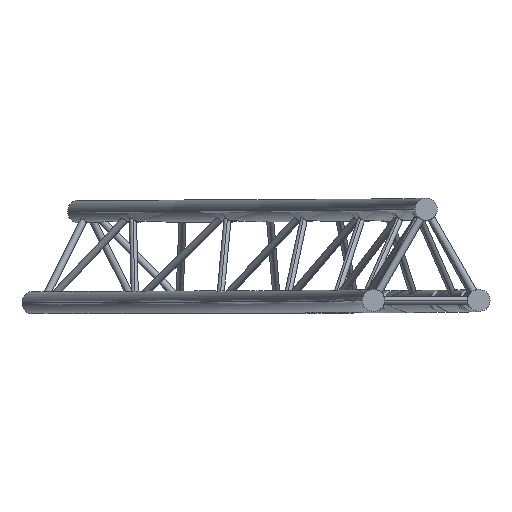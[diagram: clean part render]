
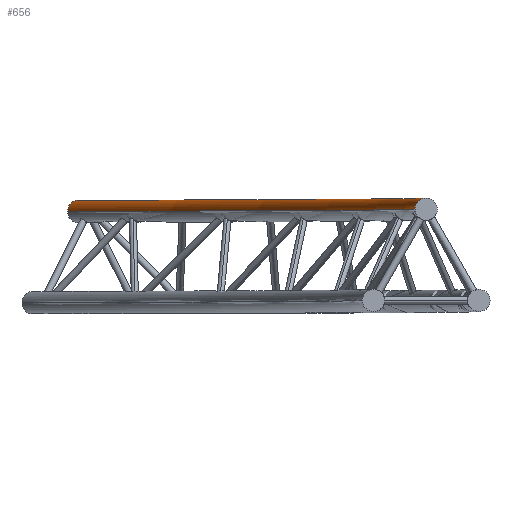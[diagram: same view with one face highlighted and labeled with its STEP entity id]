
A CAD part, top view. The second image highlights one B-rep face of the part: STEP entity #656.
In plain terms, the highlighted toroidal (fillet/blend) face has major radius 5856.5 mm and minor radius 25 mm.
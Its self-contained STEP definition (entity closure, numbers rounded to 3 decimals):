
#55 = EDGE_CURVE ( 'NONE', #531, #56, #1358, .T. ) ;
#56 = VERTEX_POINT ( 'NONE', #1350 ) ;
#531 = VERTEX_POINT ( 'NONE', #3977 ) ;
#535 = VERTEX_POINT ( 'NONE', #4010 ) ;
#651 = EDGE_CURVE ( 'NONE', #9315, #56, #4701, .T. ) ;
#654 = EDGE_LOOP ( 'NONE', ( #657, #658, #659, #660 ) ) ;
#655 = EDGE_CURVE ( 'NONE', #535, #531, #4806, .T. ) ;
#656 = ADVANCED_FACE ( 'NONE', ( #4801 ), #4800, .T. ) ;
#657 = ORIENTED_EDGE ( 'NONE', *, *, #9312, .F. ) ;
#658 = ORIENTED_EDGE ( 'NONE', *, *, #655, .T. ) ;
#659 = ORIENTED_EDGE ( 'NONE', *, *, #55, .T. ) ;
#660 = ORIENTED_EDGE ( 'NONE', *, *, #651, .F. ) ;
#1350 = CARTESIAN_POINT ( 'NONE',  ( 5831.5, 136.832, 0. ) ) ;
#1351 = DIRECTION ( 'NONE',  ( 0., 0., -1. ) ) ;
#1352 = DIRECTION ( 'NONE',  ( 0., -1., 0. ) ) ;
#1353 = CARTESIAN_POINT ( 'NONE',  ( 0., 136.832, 0. ) ) ;
#1354 = AXIS2_PLACEMENT_3D ( 'NONE', #1353, #1352, #1351 ) ;
#1358 = CIRCLE ( 'NONE', #1354, 5831.5 ) ;
#3977 = CARTESIAN_POINT ( 'NONE',  ( 5050.227, 136.832, -2915.75 ) ) ;
#4010 = CARTESIAN_POINT ( 'NONE',  ( 5093.528, 136.832, -2940.75 ) ) ;
#4701 = CIRCLE ( 'NONE', #4738, 25. ) ;
#4736 = DIRECTION ( 'NONE',  ( 0., 0., 1. ) ) ;
#4737 = CARTESIAN_POINT ( 'NONE',  ( 5856.5, 136.832, 0. ) ) ;
#4738 = AXIS2_PLACEMENT_3D ( 'NONE', #4737, #4736, #4812 ) ;
#4795 = DIRECTION ( 'NONE',  ( 0., 0., -1. ) ) ;
#4796 = DIRECTION ( 'NONE',  ( 0., -1., 0. ) ) ;
#4797 = AXIS2_PLACEMENT_3D ( 'NONE', #4799, #4796, #4795 ) ;
#4799 = CARTESIAN_POINT ( 'NONE',  ( 0., 136.832, 0. ) ) ;
#4800 = TOROIDAL_SURFACE ( 'NONE', #4797, 5856.5, 25. ) ;
#4801 = FACE_OUTER_BOUND ( 'NONE', #654, .T. ) ;
#4802 = DIRECTION ( 'NONE',  ( 0.866, 0., -0.5 ) ) ;
#4803 = DIRECTION ( 'NONE',  ( 0.5, 0., 0.866 ) ) ;
#4804 = CARTESIAN_POINT ( 'NONE',  ( 5071.878, 136.832, -2928.25 ) ) ;
#4805 = AXIS2_PLACEMENT_3D ( 'NONE', #4804, #4803, #4802 ) ;
#4806 = CIRCLE ( 'NONE', #4805, 25. ) ;
#4812 = DIRECTION ( 'NONE',  ( 1., 0., 0. ) ) ;
#8097 = CARTESIAN_POINT ( 'NONE',  ( 0., 136.832, 0. ) ) ;
#8117 = CARTESIAN_POINT ( 'NONE',  ( 5881.5, 136.832, 0. ) ) ;
#8118 = DIRECTION ( 'NONE',  ( 0., 0., -1. ) ) ;
#8119 = DIRECTION ( 'NONE',  ( 0., -1., 0. ) ) ;
#8120 = AXIS2_PLACEMENT_3D ( 'NONE', #8097, #8119, #8118 ) ;
#8121 = CIRCLE ( 'NONE', #8120, 5881.5 ) ;
#9312 = EDGE_CURVE ( 'NONE', #535, #9315, #8121, .T. ) ;
#9315 = VERTEX_POINT ( 'NONE', #8117 ) ;
